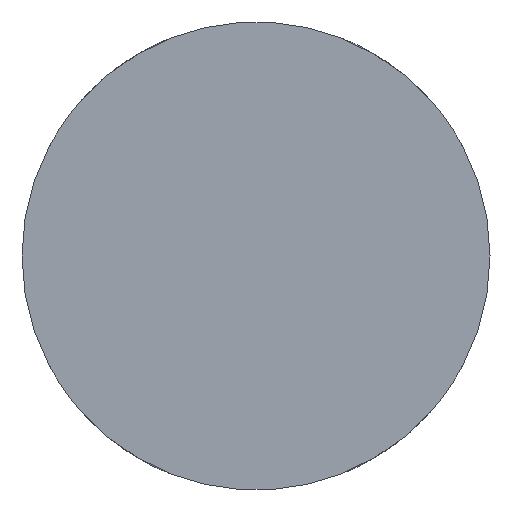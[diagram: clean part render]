
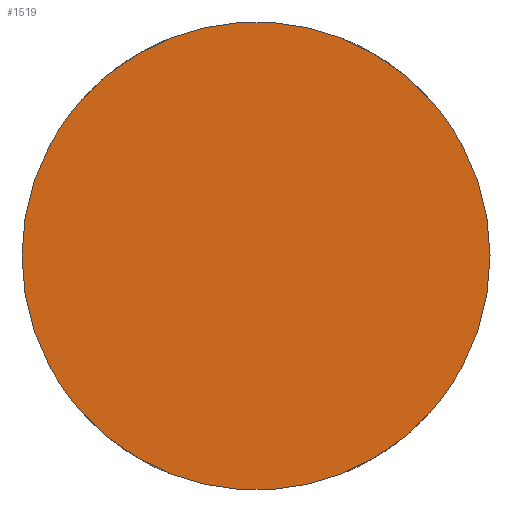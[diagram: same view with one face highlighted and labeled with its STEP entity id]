
A CAD part, front view. The second image highlights one B-rep face of the part: STEP entity #1519.
In plain terms, the highlighted planar face has unit normal (0, -1, 0).
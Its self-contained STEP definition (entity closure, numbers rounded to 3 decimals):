
#119=PLANE('',#1645);
#179=FACE_OUTER_BOUND('',#275,.T.);
#275=EDGE_LOOP('',(#1154,#1155,#1156,#1157,#1158,#1159,#1160,#1161,#1162,
#1163,#1164,#1165));
#341=CIRCLE('',#1598,14.75);
#343=CIRCLE('',#1603,14.75);
#345=CIRCLE('',#1606,14.75);
#351=CIRCLE('',#1613,14.75);
#353=CIRCLE('',#1616,14.75);
#374=CIRCLE('',#1646,14.75);
#375=CIRCLE('',#1647,14.75);
#376=CIRCLE('',#1648,14.75);
#377=CIRCLE('',#1649,14.75);
#378=CIRCLE('',#1650,14.75);
#379=CIRCLE('',#1651,14.75);
#380=CIRCLE('',#1652,14.75);
#556=VERTEX_POINT('',#2233);
#557=VERTEX_POINT('',#2235);
#561=VERTEX_POINT('',#2304);
#562=VERTEX_POINT('',#2321);
#564=VERTEX_POINT('',#2330);
#575=VERTEX_POINT('',#2544);
#592=VERTEX_POINT('',#2750);
#633=VERTEX_POINT('',#3489);
#634=VERTEX_POINT('',#3490);
#635=VERTEX_POINT('',#3492);
#636=VERTEX_POINT('',#3495);
#637=VERTEX_POINT('',#3498);
#719=EDGE_CURVE('',#556,#557,#341,.T.);
#728=EDGE_CURVE('',#561,#562,#343,.T.);
#732=EDGE_CURVE('',#564,#561,#345,.T.);
#746=EDGE_CURVE('',#575,#556,#351,.T.);
#766=EDGE_CURVE('',#562,#592,#353,.T.);
#827=EDGE_CURVE('',#633,#634,#374,.T.);
#828=EDGE_CURVE('',#635,#633,#375,.T.);
#829=EDGE_CURVE('',#592,#635,#376,.T.);
#830=EDGE_CURVE('',#636,#564,#377,.T.);
#831=EDGE_CURVE('',#557,#636,#378,.T.);
#832=EDGE_CURVE('',#637,#575,#379,.T.);
#833=EDGE_CURVE('',#634,#637,#380,.T.);
#1154=ORIENTED_EDGE('',*,*,#827,.F.);
#1155=ORIENTED_EDGE('',*,*,#828,.F.);
#1156=ORIENTED_EDGE('',*,*,#829,.F.);
#1157=ORIENTED_EDGE('',*,*,#766,.F.);
#1158=ORIENTED_EDGE('',*,*,#728,.F.);
#1159=ORIENTED_EDGE('',*,*,#732,.F.);
#1160=ORIENTED_EDGE('',*,*,#830,.F.);
#1161=ORIENTED_EDGE('',*,*,#831,.F.);
#1162=ORIENTED_EDGE('',*,*,#719,.F.);
#1163=ORIENTED_EDGE('',*,*,#746,.F.);
#1164=ORIENTED_EDGE('',*,*,#832,.F.);
#1165=ORIENTED_EDGE('',*,*,#833,.F.);
#1519=ADVANCED_FACE('',(#179),#119,.F.);
#1598=AXIS2_PLACEMENT_3D('',#2236,#1714,#1715);
#1603=AXIS2_PLACEMENT_3D('',#2322,#1726,#1727);
#1606=AXIS2_PLACEMENT_3D('',#2349,#1732,#1733);
#1613=AXIS2_PLACEMENT_3D('',#2546,#1746,#1747);
#1616=AXIS2_PLACEMENT_3D('',#2751,#1754,#1755);
#1645=AXIS2_PLACEMENT_3D('',#3488,#1812,#1813);
#1646=AXIS2_PLACEMENT_3D('',#3491,#1814,#1815);
#1647=AXIS2_PLACEMENT_3D('',#3493,#1816,#1817);
#1648=AXIS2_PLACEMENT_3D('',#3494,#1818,#1819);
#1649=AXIS2_PLACEMENT_3D('',#3496,#1820,#1821);
#1650=AXIS2_PLACEMENT_3D('',#3497,#1822,#1823);
#1651=AXIS2_PLACEMENT_3D('',#3499,#1824,#1825);
#1652=AXIS2_PLACEMENT_3D('',#3500,#1826,#1827);
#1714=DIRECTION('center_axis',(0.,1.,0.));
#1715=DIRECTION('ref_axis',(0.,0.,1.));
#1726=DIRECTION('center_axis',(0.,1.,0.));
#1727=DIRECTION('ref_axis',(0.,0.,1.));
#1732=DIRECTION('center_axis',(0.,1.,0.));
#1733=DIRECTION('ref_axis',(0.,0.,1.));
#1746=DIRECTION('center_axis',(0.,1.,0.));
#1747=DIRECTION('ref_axis',(0.,0.,1.));
#1754=DIRECTION('center_axis',(0.,1.,0.));
#1755=DIRECTION('ref_axis',(0.,0.,1.));
#1812=DIRECTION('center_axis',(0.,1.,0.));
#1813=DIRECTION('ref_axis',(0.,0.,1.));
#1814=DIRECTION('center_axis',(0.,1.,0.));
#1815=DIRECTION('ref_axis',(0.,0.,1.));
#1816=DIRECTION('center_axis',(0.,1.,0.));
#1817=DIRECTION('ref_axis',(0.,0.,1.));
#1818=DIRECTION('center_axis',(0.,1.,0.));
#1819=DIRECTION('ref_axis',(0.,0.,1.));
#1820=DIRECTION('center_axis',(0.,1.,0.));
#1821=DIRECTION('ref_axis',(0.,0.,1.));
#1822=DIRECTION('center_axis',(0.,1.,0.));
#1823=DIRECTION('ref_axis',(0.,0.,1.));
#1824=DIRECTION('center_axis',(0.,1.,0.));
#1825=DIRECTION('ref_axis',(0.,0.,1.));
#1826=DIRECTION('center_axis',(0.,1.,0.));
#1827=DIRECTION('ref_axis',(0.,0.,1.));
#2233=CARTESIAN_POINT('',(-13.003,0.,6.963));
#2235=CARTESIAN_POINT('',(-11.028,0.,9.795));
#2236=CARTESIAN_POINT('Origin',(0.,0.,
0.));
#2304=CARTESIAN_POINT('',(11.028,0.,9.795));
#2321=CARTESIAN_POINT('',(13.003,0.,6.963));
#2322=CARTESIAN_POINT('Origin',(0.,0.,
0.));
#2330=CARTESIAN_POINT('',(5.327,0.,13.755));
#2349=CARTESIAN_POINT('Origin',(0.,0.,0.));
#2544=CARTESIAN_POINT('',(-13.003,0.,-6.963));
#2546=CARTESIAN_POINT('Origin',(0.,0.,
0.));
#2750=CARTESIAN_POINT('',(13.003,0.,-6.963));
#2751=CARTESIAN_POINT('Origin',(0.,0.,
0.));
#3488=CARTESIAN_POINT('Origin',(0.,0.,0.));
#3489=CARTESIAN_POINT('',(5.327,0.,-13.755));
#3490=CARTESIAN_POINT('',(-5.327,0.,-13.755));
#3491=CARTESIAN_POINT('Origin',(0.,0.,
0.));
#3492=CARTESIAN_POINT('',(11.028,0.,-9.795));
#3493=CARTESIAN_POINT('Origin',(0.,0.,0.));
#3494=CARTESIAN_POINT('Origin',(0.,0.,
0.));
#3495=CARTESIAN_POINT('',(-5.327,0.,13.755));
#3496=CARTESIAN_POINT('Origin',(0.,0.,
0.));
#3497=CARTESIAN_POINT('Origin',(0.,0.,0.));
#3498=CARTESIAN_POINT('',(-11.028,0.,-9.795));
#3499=CARTESIAN_POINT('Origin',(0.,0.,
0.));
#3500=CARTESIAN_POINT('Origin',(0.,0.,0.));
